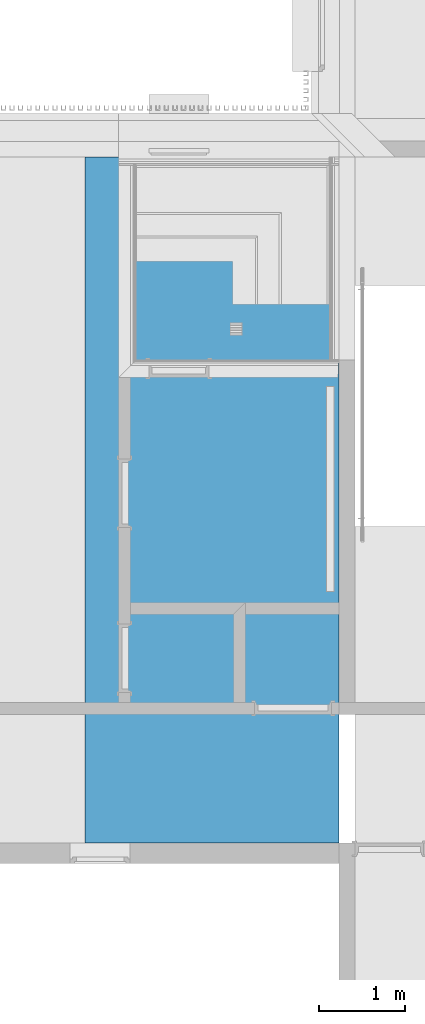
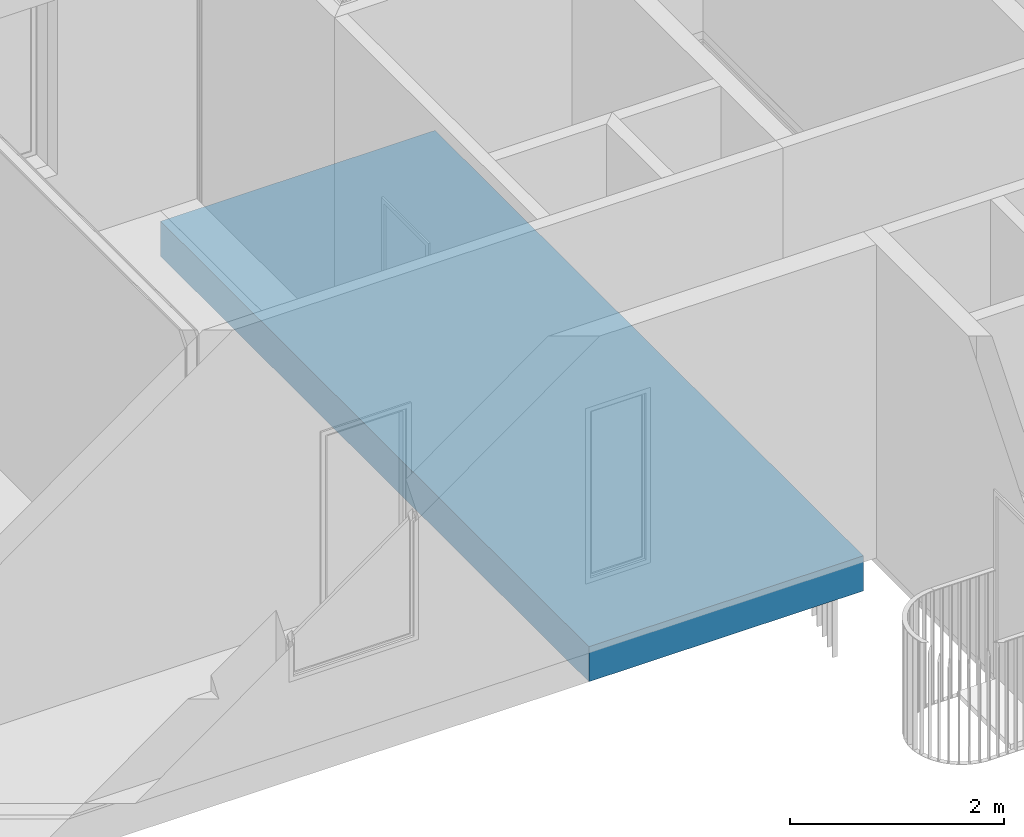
# One storey, part 66 of 100: 1 building element part, 1 element without a shape of its own.
"""IFC2X3 building model written with IfcOpenShell, lengths in millimetres."""

from ifc_helpers import new_model, entity, si_unit, converted_unit, derived_unit, money_unit, direction, frame, origin_with_axes, place, context, subcontext, project, spatial, polyline, outline, extrude, boolean, faceted_brep, material, type_object, element, aggregate, save


model = new_model("IFC2X3")

# Units and contexts
model_context = context("Model", 3, precision=0.01, world=origin_with_axes(), true_north=direction((0.0, 1.0)))
body_context = subcontext(model_context, "Body", "Model", "MODEL_VIEW")
ifc_project = project(units=[si_unit("LENGTHUNIT", "METRE", prefix="MILLI"), si_unit("AREAUNIT", "SQUARE_METRE"), si_unit("VOLUMEUNIT", "CUBIC_METRE"), converted_unit("PLANEANGLEUNIT", "DEGREE", entity("IfcPlaneAngleMeasure", 0.0174532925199), si_unit("PLANEANGLEUNIT", "RADIAN"), dimensions=[0, 0, 0, 0, 0, 0, 0]), si_unit("SOLIDANGLEUNIT", "STERADIAN"), money_unit("EUR"), converted_unit("TIMEUNIT", "Year", entity("IfcTimeMeasure", 31556926.0), si_unit("TIMEUNIT", "SECOND"), dimensions=[0, 0, 1, 0, 0, 0, 0]), si_unit("MASSUNIT", "GRAM", prefix="KILO"), si_unit("THERMODYNAMICTEMPERATUREUNIT", "DEGREE_CELSIUS"), si_unit("LUMINOUSINTENSITYUNIT", "LUMEN"), si_unit("ENERGYUNIT", "JOULE", prefix="MEGA"), derived_unit("THERMALCONDUCTANCEUNIT", [(si_unit("POWERUNIT", "WATT"), 1), (si_unit("LENGTHUNIT", "METRE"), -1), (si_unit("THERMODYNAMICTEMPERATUREUNIT", "KELVIN"), -1)]), derived_unit("SPECIFICHEATCAPACITYUNIT", [(si_unit("ENERGYUNIT", "JOULE"), 1), (si_unit("MASSUNIT", "GRAM", prefix="KILO"), -1), (si_unit("THERMODYNAMICTEMPERATUREUNIT", "KELVIN"), -1)]), derived_unit("MASSDENSITYUNIT", [(si_unit("MASSUNIT", "GRAM", prefix="KILO"), 1), (si_unit("VOLUMEUNIT", "CUBIC_METRE"), -1)])], contexts=[model_context])

# Site, building, storey
site_placement = place(None, origin_with_axes())
site = spatial("IfcSite", under=ifc_project, at=site_placement, Name="Politse- ja Piirivalveameti ning Päästeameti ühishoone", CompositionType="ELEMENT")
building_placement = place(site_placement, origin_with_axes())
building = spatial("IfcBuilding", under=site, at=building_placement, Name="Politse- ja Piirivalveameti ning Päästeameti ühishoone", CompositionType="ELEMENT")
storey_placement = place(building_placement, frame((0.0, 0.0, 3800.0), z_axis=(0.0, 0.0, 1.0), x_axis=(1.0, 0.0, 0.0)))
storey = spatial("IfcBuildingStorey", under=building, at=storey_placement, Name="Teine korrus", CompositionType="ELEMENT", Elevation=3800.0)

# Slab, building element part
slab_type = type_object("IfcSlabType", Name="VL-05_Vahelagi   400 paneel 520", PredefinedType="NOTDEFINED")
slab_placement = place(storey_placement, frame((57010.0279565, 20999.9410462, 0.0), z_axis=(0.0, 0.0, 1.0), x_axis=(1.0, 0.0, 0.0)))
slab = element("IfcSlab", 1, at=slab_placement, inside=storey, type_object=slab_type, Name="VL-05", PredefinedType="NOTDEFINED")
ifc_material = material(Name="KON-06_Raudbetoon - Konstruktsioon")
building_element_part_placement = place(slab_placement, origin_with_axes())
building_element_part = element("IfcBuildingElementPart", 2, at=building_element_part_placement, material=ifc_material, Name="KON-06_Raudbetoon - Konstruktsioon", context=body_context, shape_type="CSG", body=[
    boolean("DIFFERENCE", boolean("DIFFERENCE", boolean("DIFFERENCE", extrude(outline(polyline([(0.0, 0.0), (0.00405077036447, -7999.9211851), (2960.52395533, -7999.9211851), (2960.52395533, -4.69243666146e-05), (0.0, 0.0)])), frame((0.0, 0.0, -520.0), z_axis=(0.0, 0.0, 1.0), x_axis=(1.0, 0.0, 0.0)), (0.0, 0.0, 1.0), 400.0), faceted_brep([(1687.3840015, -2080.03274076, -90.0), (1837.3840015, -2080.03274076, -90.0), (1837.3840015, -1930.03274076, -90.0), (1687.3840015, -1930.03274076, -90.0), (1806.8840015, -1960.53274076, -90.0), (1806.8840015, -1935.03274076, -90.0), (1832.3840015, -1935.03274076, -90.0), (1832.3840015, -1960.53274076, -90.0), (1806.8840015, -1989.53274076, -90.0), (1806.8840015, -1962.53274076, -90.0), (1832.3840015, -1962.53274076, -90.0), (1832.3840015, -1989.53274076, -90.0), (1806.8840015, -2018.53274076, -90.0), (1806.8840015, -1991.53274076, -90.0), (1832.3840015, -1991.53274076, -90.0), (1832.3840015, -2018.53274076, -90.0), (1806.8840015, -2047.53274076, -90.0), (1806.8840015, -2020.53274076, -90.0), (1832.3840015, -2020.53274076, -90.0), (1832.3840015, -2047.53274076, -90.0), (1777.8840015, -1960.53274076, -90.0), (1777.8840015, -1935.03274076, -90.0), (1804.8840015, -1935.03274076, -90.0), (1804.8840015, -1960.53274076, -90.0), (1777.8840015, -1989.53274076, -90.0), (1777.8840015, -1962.53274076, -90.0), (1804.8840015, -1962.53274076, -90.0), (1804.8840015, -1989.53274076, -90.0), (1777.8840015, -2018.53274076, -90.0), (1777.8840015, -1991.53274076, -90.0), (1804.8840015, -1991.53274076, -90.0), (1804.8840015, -2018.53274076, -90.0), (1777.8840015, -2047.53274076, -90.0), (1777.8840015, -2020.53274076, -90.0), (1804.8840015, -2020.53274076, -90.0), (1804.8840015, -2047.53274076, -90.0), (1748.8840015, -1960.53274076, -90.0), (1748.8840012, -1935.03274076, -90.0), (1775.8840015, -1935.03274076, -90.0), (1775.8840015, -1960.53274076, -90.0), (1748.8840015, -1989.53274076, -90.0), (1748.8840015, -1962.53274076, -90.0), (1775.8840015, -1962.53274076, -90.0), (1775.8840015, -1989.53274076, -90.0), (1748.8840015, -2018.53274076, -90.0), (1748.8840015, -1991.53274076, -90.0), (1775.8840015, -1991.53274076, -90.0), (1775.8840015, -2018.53274076, -90.0), (1748.8840015, -2047.53274076, -90.0), (1748.8840015, -2020.53274076, -90.0), (1775.8840015, -2020.53274076, -90.0), (1775.8840015, -2047.53274076, -90.0), (1719.8840015, -1960.53274076, -90.0), (1719.8840012, -1935.03274076, -90.0), (1746.8840015, -1935.03274076, -90.0), (1746.8840015, -1960.53274076, -90.0), (1719.8840015, -1989.53274076, -90.0), (1719.8840015, -1962.53274076, -90.0), (1746.8840015, -1962.53274076, -90.0), (1746.8840015, -1989.53274076, -90.0), (1719.8840015, -2018.53274076, -90.0), (1719.8840015, -1991.53274076, -90.0), (1746.8840015, -1991.53274076, -90.0), (1746.8840015, -2018.53274076, -90.0), (1719.8840015, -2047.53274076, -90.0), (1719.8840015, -2020.53274076, -90.0), (1746.8840015, -2020.53274076, -90.0), (1746.8840015, -2047.53274076, -90.0), (1692.3840015, -1960.53274076, -90.0), (1692.3840015, -1935.03274076, -90.0), (1717.8840015, -1935.03274076, -90.0), (1717.8840015, -1960.53274076, -90.0), (1692.3840015, -1989.53274076, -90.0), (1692.3840015, -1962.53274076, -90.0), (1717.8840015, -1962.53274076, -90.0), (1717.8840015, -1989.53274076, -90.0), (1692.3840015, -2018.53274076, -90.0), (1692.3840015, -1991.53274076, -90.0), (1717.8840015, -1991.53274076, -90.0), (1717.8840015, -2018.53274076, -90.0), (1692.3840015, -2047.53274076, -90.0), (1692.3840015, -2020.53274076, -90.0), (1717.8840015, -2020.53274076, -90.0), (1717.8840015, -2047.53274076, -90.0), (1692.3840015, -2075.03274076, -90.0), (1692.3840015, -2049.53274076, -90.0), (1717.8840015, -2049.53274076, -90.0), (1717.8840015, -2075.03274076, -90.0), (1719.8840015, -2075.03274076, -90.0), (1719.8840015, -2049.53274076, -90.0), (1746.8840015, -2049.53274076, -90.0), (1746.8840015, -2075.03274076, -90.0), (1748.8840015, -2075.03274076, -90.0), (1748.8840015, -2049.53274076, -90.0), (1775.8840015, -2049.53274076, -90.0), (1775.8840015, -2075.03274076, -90.0), (1777.8840015, -2075.03274076, -90.0), (1777.8840015, -2049.53274076, -90.0), (1804.8840015, -2049.53274076, -90.0), (1804.8840015, -2075.03274076, -90.0), (1806.8840015, -2075.03274076, -90.0), (1806.8840015, -2049.53274076, -90.0), (1832.3840015, -2049.53274076, -90.0), (1832.3840015, -2075.03274076, -90.0), (1687.3840015, -2080.03274076, -100.0), (1837.3840015, -2080.03274076, -100.0), (1837.3840015, -1930.03274076, -100.0), (1687.3840015, -1930.03274076, -100.0), (1806.8840015, -1960.53274076, -100.0), (1806.8840015, -1935.03274076, -100.0), (1832.3840015, -1935.03274076, -100.0), (1832.3840015, -1960.53274076, -100.0), (1806.8840015, -1989.53274076, -100.0), (1806.8840015, -1962.53274076, -100.0), (1832.3840015, -1962.53274076, -100.0), (1832.3840015, -1989.53274076, -100.0), (1806.8840015, -2018.53274076, -100.0), (1806.8840015, -1991.53274076, -100.0), (1832.3840015, -1991.53274076, -100.0), (1832.3840015, -2018.53274076, -100.0), (1806.8840015, -2047.53274076, -100.0), (1806.8840015, -2020.53274076, -100.0), (1832.3840015, -2020.53274076, -100.0), (1832.3840015, -2047.53274076, -100.0), (1777.8840015, -1960.53274076, -100.0), (1777.8840015, -1935.03274076, -100.0), (1804.8840015, -1935.03274076, -100.0), (1804.8840015, -1960.53274076, -100.0), (1777.8840015, -1989.53274076, -100.0), (1777.8840015, -1962.53274076, -100.0), (1804.8840015, -1962.53274076, -100.0), (1804.8840015, -1989.53274076, -100.0), (1777.8840015, -2018.53274076, -100.0), (1777.8840015, -1991.53274076, -100.0), (1804.8840015, -1991.53274076, -100.0), (1804.8840015, -2018.53274076, -100.0), (1777.8840015, -2047.53274076, -100.0), (1777.8840015, -2020.53274076, -100.0), (1804.8840015, -2020.53274076, -100.0), (1804.8840015, -2047.53274076, -100.0), (1748.8840015, -1960.53274076, -100.0), (1748.8840012, -1935.03274076, -100.0), (1775.8840015, -1935.03274076, -100.0), (1775.8840015, -1960.53274076, -100.0), (1748.8840015, -1989.53274076, -100.0), (1748.8840015, -1962.53274076, -100.0), (1775.8840015, -1962.53274076, -100.0), (1775.8840015, -1989.53274076, -100.0), (1748.8840015, -2018.53274076, -100.0), (1748.8840015, -1991.53274076, -100.0), (1775.8840015, -1991.53274076, -100.0), (1775.8840015, -2018.53274076, -100.0), (1748.8840015, -2047.53274076, -100.0), (1748.8840015, -2020.53274076, -100.0), (1775.8840015, -2020.53274076, -100.0), (1775.8840015, -2047.53274076, -100.0), (1719.8840015, -1960.53274076, -100.0), (1719.8840012, -1935.03274076, -100.0), (1746.8840015, -1935.03274076, -100.0), (1746.8840015, -1960.53274076, -100.0), (1719.8840015, -1989.53274076, -100.0), (1719.8840015, -1962.53274076, -100.0), (1746.8840015, -1962.53274076, -100.0), (1746.8840015, -1989.53274076, -100.0), (1719.8840015, -2018.53274076, -100.0), (1719.8840015, -1991.53274076, -100.0), (1746.8840015, -1991.53274076, -100.0), (1746.8840015, -2018.53274076, -100.0), (1719.8840015, -2047.53274076, -100.0), (1719.8840015, -2020.53274076, -100.0), (1746.8840015, -2020.53274076, -100.0), (1746.8840015, -2047.53274076, -100.0), (1692.3840015, -1960.53274076, -100.0), (1692.3840015, -1935.03274076, -100.0), (1717.8840015, -1935.03274076, -100.0), (1717.8840015, -1960.53274076, -100.0), (1692.3840015, -1989.53274076, -100.0), (1692.3840015, -1962.53274076, -100.0), (1717.8840015, -1962.53274076, -100.0), (1717.8840015, -1989.53274076, -100.0), (1692.3840015, -2018.53274076, -100.0), (1692.3840015, -1991.53274076, -100.0), (1717.8840015, -1991.53274076, -100.0), (1717.8840015, -2018.53274076, -100.0), (1692.3840015, -2047.53274076, -100.0), (1692.3840015, -2020.53274076, -100.0), (1717.8840015, -2020.53274076, -100.0), (1717.8840015, -2047.53274076, -100.0), (1692.3840015, -2075.03274076, -100.0), (1692.3840015, -2049.53274076, -100.0), (1717.8840015, -2049.53274076, -100.0), (1717.8840015, -2075.03274076, -100.0), (1719.8840015, -2075.03274076, -100.0), (1719.8840015, -2049.53274076, -100.0), (1746.8840015, -2049.53274076, -100.0), (1746.8840015, -2075.03274076, -100.0), (1748.8840015, -2075.03274076, -100.0), (1748.8840015, -2049.53274076, -100.0), (1775.8840015, -2049.53274076, -100.0), (1775.8840015, -2075.03274076, -100.0), (1777.8840015, -2075.03274076, -100.0), (1777.8840015, -2049.53274076, -100.0), (1804.8840015, -2049.53274076, -100.0), (1804.8840015, -2075.03274076, -100.0), (1806.8840015, -2075.03274076, -100.0), (1806.8840015, -2049.53274076, -100.0), (1832.3840015, -2049.53274076, -100.0), (1832.3840015, -2075.03274076, -100.0)], [[[0, 1, 2, 3], [4, 5, 6, 7], [8, 9, 10, 11], [12, 13, 14, 15], [16, 17, 18, 19], [20, 21, 22, 23], [24, 25, 26, 27], [28, 29, 30, 31], [32, 33, 34, 35], [36, 37, 38, 39], [40, 41, 42, 43], [44, 45, 46, 47], [48, 49, 50, 51], [52, 53, 54, 55], [56, 57, 58, 59], [60, 61, 62, 63], [64, 65, 66, 67], [68, 69, 70, 71], [72, 73, 74, 75], [76, 77, 78, 79], [80, 81, 82, 83], [84, 85, 86, 87], [88, 89, 90, 91], [92, 93, 94, 95], [96, 97, 98, 99], [100, 101, 102, 103]], [[1, 0, 104, 105]], [[2, 1, 105, 106]], [[3, 2, 106, 107]], [[0, 3, 107, 104]], [[5, 4, 108, 109]], [[6, 5, 109, 110]], [[7, 6, 110, 111]], [[4, 7, 111, 108]], [[9, 8, 112, 113]], [[10, 9, 113, 114]], [[11, 10, 114, 115]], [[8, 11, 115, 112]], [[13, 12, 116, 117]], [[14, 13, 117, 118]], [[15, 14, 118, 119]], [[12, 15, 119, 116]], [[17, 16, 120, 121]], [[18, 17, 121, 122]], [[19, 18, 122, 123]], [[16, 19, 123, 120]], [[21, 20, 124, 125]], [[22, 21, 125, 126]], [[23, 22, 126, 127]], [[20, 23, 127, 124]], [[25, 24, 128, 129]], [[26, 25, 129, 130]], [[27, 26, 130, 131]], [[24, 27, 131, 128]], [[29, 28, 132, 133]], [[30, 29, 133, 134]], [[31, 30, 134, 135]], [[28, 31, 135, 132]], [[33, 32, 136, 137]], [[34, 33, 137, 138]], [[35, 34, 138, 139]], [[32, 35, 139, 136]], [[37, 36, 140, 141]], [[38, 37, 141, 142]], [[39, 38, 142, 143]], [[36, 39, 143, 140]], [[41, 40, 144, 145]], [[42, 41, 145, 146]], [[43, 42, 146, 147]], [[40, 43, 147, 144]], [[45, 44, 148, 149]], [[46, 45, 149, 150]], [[47, 46, 150, 151]], [[44, 47, 151, 148]], [[49, 48, 152, 153]], [[50, 49, 153, 154]], [[51, 50, 154, 155]], [[48, 51, 155, 152]], [[53, 52, 156, 157]], [[54, 53, 157, 158]], [[55, 54, 158, 159]], [[52, 55, 159, 156]], [[57, 56, 160, 161]], [[58, 57, 161, 162]], [[59, 58, 162, 163]], [[56, 59, 163, 160]], [[61, 60, 164, 165]], [[62, 61, 165, 166]], [[63, 62, 166, 167]], [[60, 63, 167, 164]], [[65, 64, 168, 169]], [[66, 65, 169, 170]], [[67, 66, 170, 171]], [[64, 67, 171, 168]], [[69, 68, 172, 173]], [[70, 69, 173, 174]], [[71, 70, 174, 175]], [[68, 71, 175, 172]], [[73, 72, 176, 177]], [[74, 73, 177, 178]], [[75, 74, 178, 179]], [[72, 75, 179, 176]], [[77, 76, 180, 181]], [[78, 77, 181, 182]], [[79, 78, 182, 183]], [[76, 79, 183, 180]], [[81, 80, 184, 185]], [[82, 81, 185, 186]], [[83, 82, 186, 187]], [[80, 83, 187, 184]], [[85, 84, 188, 189]], [[86, 85, 189, 190]], [[87, 86, 190, 191]], [[84, 87, 191, 188]], [[89, 88, 192, 193]], [[90, 89, 193, 194]], [[91, 90, 194, 195]], [[88, 91, 195, 192]], [[93, 92, 196, 197]], [[94, 93, 197, 198]], [[95, 94, 198, 199]], [[92, 95, 199, 196]], [[97, 96, 200, 201]], [[98, 97, 201, 202]], [[99, 98, 202, 203]], [[96, 99, 203, 200]], [[101, 100, 204, 205]], [[102, 101, 205, 206]], [[103, 102, 206, 207]], [[100, 103, 207, 204]], [[107, 173, 172, 177, 176, 181, 180, 185, 184, 189, 188, 191, 192, 195, 196, 199, 200, 203, 204, 207, 206, 123, 122, 119, 118, 115, 114, 111, 110, 106, 105, 104]], [[173, 107, 106, 110, 109, 108, 113, 112, 117, 116, 121, 120, 205, 204, 203, 202, 139, 138, 135, 134, 131, 130, 127, 126, 125, 124, 129, 128, 133, 132, 137, 136, 201, 200, 199, 198, 155, 154, 151, 150, 147, 146, 143, 142, 141, 140, 145, 144, 149, 148, 153, 152, 197, 196, 195, 194, 171, 170, 167, 166, 163, 162, 159, 158, 157, 156, 161, 160, 165, 164, 169, 168, 193, 192, 191, 190, 187, 186, 183, 182, 179, 178, 175, 174]], [[114, 113, 108, 111]], [[117, 112, 115, 118]], [[122, 121, 116, 119]], [[206, 205, 120, 123]], [[130, 129, 124, 127]], [[133, 128, 131, 134]], [[138, 137, 132, 135]], [[201, 136, 139, 202]], [[145, 140, 143, 146]], [[150, 149, 144, 147]], [[154, 153, 148, 151]], [[197, 152, 155, 198]], [[159, 162, 161, 156]], [[166, 165, 160, 163]], [[170, 169, 164, 167]], [[171, 194, 193, 168]], [[175, 178, 177, 172]], [[179, 182, 181, 176]], [[183, 186, 185, 180]], [[187, 190, 189, 184]]])), faceted_brep([(1687.3840015, -2080.03274076, -90.0), (1687.3840015, -1930.03274076, -90.0), (1837.3840015, -1930.03274076, -90.0), (1837.3840015, -2080.03274076, -90.0), (1806.8840015, -1960.53274076, -90.0), (1832.3840015, -1960.53274076, -90.0), (1832.3840015, -1935.03274076, -90.0), (1806.8840015, -1935.03274076, -90.0), (1806.8840015, -1989.53274076, -90.0), (1832.3840015, -1989.53274076, -90.0), (1832.3840015, -1962.53274076, -90.0), (1806.8840015, -1962.53274076, -90.0), (1806.8840015, -2018.53274076, -90.0), (1832.3840015, -2018.53274076, -90.0), (1832.3840015, -1991.53274076, -90.0), (1806.8840015, -1991.53274076, -90.0), (1806.8840015, -2047.53274076, -90.0), (1832.3840015, -2047.53274076, -90.0), (1832.3840015, -2020.53274076, -90.0), (1806.8840015, -2020.53274076, -90.0), (1777.8840015, -1960.53274076, -90.0), (1804.8840015, -1960.53274076, -90.0), (1804.8840015, -1935.03274076, -90.0), (1777.8840015, -1935.03274076, -90.0), (1777.8840015, -1989.53274076, -90.0), (1804.8840015, -1989.53274076, -90.0), (1804.8840015, -1962.53274076, -90.0), (1777.8840015, -1962.53274076, -90.0), (1777.8840015, -2018.53274076, -90.0), (1804.8840015, -2018.53274076, -90.0), (1804.8840015, -1991.53274076, -90.0), (1777.8840015, -1991.53274076, -90.0), (1777.8840015, -2047.53274076, -90.0), (1804.8840015, -2047.53274076, -90.0), (1804.8840015, -2020.53274076, -90.0), (1777.8840015, -2020.53274076, -90.0), (1748.8840015, -1960.53274076, -90.0), (1775.8840015, -1960.53274076, -90.0), (1775.8840015, -1935.03274076, -90.0), (1748.8840012, -1935.03274076, -90.0), (1748.8840015, -1989.53274076, -90.0), (1775.8840015, -1989.53274076, -90.0), (1775.8840015, -1962.53274076, -90.0), (1748.8840015, -1962.53274076, -90.0), (1748.8840015, -2018.53274076, -90.0), (1775.8840015, -2018.53274076, -90.0), (1775.8840015, -1991.53274076, -90.0), (1748.8840015, -1991.53274076, -90.0), (1748.8840015, -2047.53274076, -90.0), (1775.8840015, -2047.53274076, -90.0), (1775.8840015, -2020.53274076, -90.0), (1748.8840015, -2020.53274076, -90.0), (1719.8840015, -1960.53274076, -90.0), (1746.8840015, -1960.53274076, -90.0), (1746.8840015, -1935.03274076, -90.0), (1719.8840012, -1935.03274076, -90.0), (1719.8840015, -1989.53274076, -90.0), (1746.8840015, -1989.53274076, -90.0), (1746.8840015, -1962.53274076, -90.0), (1719.8840015, -1962.53274076, -90.0), (1719.8840015, -2018.53274076, -90.0), (1746.8840015, -2018.53274076, -90.0), (1746.8840015, -1991.53274076, -90.0), (1719.8840015, -1991.53274076, -90.0), (1719.8840015, -2047.53274076, -90.0), (1746.8840015, -2047.53274076, -90.0), (1746.8840015, -2020.53274076, -90.0), (1719.8840015, -2020.53274076, -90.0), (1692.3840015, -1960.53274076, -90.0), (1717.8840015, -1960.53274076, -90.0), (1717.8840015, -1935.03274076, -90.0), (1692.3840015, -1935.03274076, -90.0), (1692.3840015, -1989.53274076, -90.0), (1717.8840015, -1989.53274076, -90.0), (1717.8840015, -1962.53274076, -90.0), (1692.3840015, -1962.53274076, -90.0), (1692.3840015, -2018.53274076, -90.0), (1717.8840015, -2018.53274076, -90.0), (1717.8840015, -1991.53274076, -90.0), (1692.3840015, -1991.53274076, -90.0), (1692.3840015, -2047.53274076, -90.0), (1717.8840015, -2047.53274076, -90.0), (1717.8840015, -2020.53274076, -90.0), (1692.3840015, -2020.53274076, -90.0), (1692.3840015, -2075.03274076, -90.0), (1717.8840015, -2075.03274076, -90.0), (1717.8840015, -2049.53274076, -90.0), (1692.3840015, -2049.53274076, -90.0), (1719.8840015, -2075.03274076, -90.0), (1746.8840015, -2075.03274076, -90.0), (1746.8840015, -2049.53274076, -90.0), (1719.8840015, -2049.53274076, -90.0), (1748.8840015, -2075.03274076, -90.0), (1775.8840015, -2075.03274076, -90.0), (1775.8840015, -2049.53274076, -90.0), (1748.8840015, -2049.53274076, -90.0), (1777.8840015, -2075.03274076, -90.0), (1804.8840015, -2075.03274076, -90.0), (1804.8840015, -2049.53274076, -90.0), (1777.8840015, -2049.53274076, -90.0), (1806.8840015, -2075.03274076, -90.0), (1832.3840015, -2075.03274076, -90.0), (1832.3840015, -2049.53274076, -90.0), (1806.8840015, -2049.53274076, -90.0), (1687.3840015, -2080.03274076, 0.0), (1687.3840015, -1930.03274076, 0.0), (1837.3840015, -1930.03274076, 0.0), (1837.3840015, -2080.03274076, 0.0), (1806.8840015, -1960.53274076, -56.35), (1832.3840015, -1960.53274076, -56.35), (1832.3840015, -1935.03274076, -56.35), (1806.8840015, -1935.03274076, -56.35), (1806.8840015, -1989.53274076, -56.35), (1832.3840015, -1989.53274076, -56.35), (1832.3840015, -1962.53274076, -56.35), (1806.8840015, -1962.53274076, -56.35), (1806.8840015, -2018.53274076, -56.35), (1832.3840015, -2018.53274076, -56.35), (1832.3840015, -1991.53274076, -56.35), (1806.8840015, -1991.53274076, -56.35), (1806.8840015, -2047.53274076, -56.35), (1832.3840015, -2047.53274076, -56.35), (1832.3840015, -2020.53274076, -56.35), (1806.8840015, -2020.53274076, -56.35), (1777.8840015, -1960.53274076, -56.35), (1804.8840015, -1960.53274076, -56.35), (1804.8840015, -1935.03274076, -56.35), (1777.8840015, -1935.03274076, -56.35), (1777.8840015, -1989.53274076, -56.35), (1804.8840015, -1989.53274076, -56.35), (1804.8840015, -1962.53274076, -56.35), (1777.8840015, -1962.53274076, -56.35), (1777.8840015, -2018.53274076, -56.35), (1804.8840015, -2018.53274076, -56.35), (1804.8840015, -1991.53274076, -56.35), (1777.8840015, -1991.53274076, -56.35), (1777.8840015, -2047.53274076, -56.35), (1804.8840015, -2047.53274076, -56.35), (1804.8840015, -2020.53274076, -56.35), (1777.8840015, -2020.53274076, -56.35), (1748.8840015, -1960.53274076, -56.35), (1775.8840015, -1960.53274076, -56.35), (1775.8840015, -1935.03274076, -56.35), (1748.8840012, -1935.03274076, -56.35), (1748.8840015, -1989.53274076, -56.35), (1775.8840015, -1989.53274076, -56.35), (1775.8840015, -1962.53274076, -56.35), (1748.8840015, -1962.53274076, -56.35), (1748.8840015, -2018.53274076, -56.35), (1775.8840015, -2018.53274076, -56.35), (1775.8840015, -1991.53274076, -56.35), (1748.8840015, -1991.53274076, -56.35), (1748.8840015, -2047.53274076, -56.35), (1775.8840015, -2047.53274076, -56.35), (1775.8840015, -2020.53274076, -56.35), (1748.8840015, -2020.53274076, -56.35), (1719.8840015, -1960.53274076, -56.35), (1746.8840015, -1960.53274076, -56.35), (1746.8840015, -1935.03274076, -56.35), (1719.8840012, -1935.03274076, -56.35), (1719.8840015, -1989.53274076, -56.35), (1746.8840015, -1989.53274076, -56.35), (1746.8840015, -1962.53274076, -56.35), (1719.8840015, -1962.53274076, -56.35), (1719.8840015, -2018.53274076, -56.35), (1746.8840015, -2018.53274076, -56.35), (1746.8840015, -1991.53274076, -56.35), (1719.8840015, -1991.53274076, -56.35), (1719.8840015, -2047.53274076, -56.35), (1746.8840015, -2047.53274076, -56.35), (1746.8840015, -2020.53274076, -56.35), (1719.8840015, -2020.53274076, -56.35), (1692.3840015, -1960.53274076, -56.35), (1717.8840015, -1960.53274076, -56.35), (1717.8840015, -1935.03274076, -56.35), (1692.3840015, -1935.03274076, -56.35), (1692.3840015, -1989.53274076, -56.35), (1717.8840015, -1989.53274076, -56.35), (1717.8840015, -1962.53274076, -56.35), (1692.3840015, -1962.53274076, -56.35), (1692.3840015, -2018.53274076, -56.35), (1717.8840015, -2018.53274076, -56.35), (1717.8840015, -1991.53274076, -56.35), (1692.3840015, -1991.53274076, -56.35), (1692.3840015, -2047.53274076, -56.35), (1717.8840015, -2047.53274076, -56.35), (1717.8840015, -2020.53274076, -56.35), (1692.3840015, -2020.53274076, -56.35), (1692.3840015, -2075.03274076, -56.35), (1717.8840015, -2075.03274076, -56.35), (1717.8840015, -2049.53274076, -56.35), (1692.3840015, -2049.53274076, -56.35), (1719.8840015, -2075.03274076, -56.35), (1746.8840015, -2075.03274076, -56.35), (1746.8840015, -2049.53274076, -56.35), (1719.8840015, -2049.53274076, -56.35), (1748.8840015, -2075.03274076, -56.35), (1775.8840015, -2075.03274076, -56.35), (1775.8840015, -2049.53274076, -56.35), (1748.8840015, -2049.53274076, -56.35), (1777.8840015, -2075.03274076, -56.35), (1804.8840015, -2075.03274076, -56.35), (1804.8840015, -2049.53274076, -56.35), (1777.8840015, -2049.53274076, -56.35), (1806.8840015, -2075.03274076, -56.35), (1832.3840015, -2075.03274076, -56.35), (1832.3840015, -2049.53274076, -56.35), (1806.8840015, -2049.53274076, -56.35)], [[[0, 1, 2, 3], [4, 5, 6, 7], [8, 9, 10, 11], [12, 13, 14, 15], [16, 17, 18, 19], [20, 21, 22, 23], [24, 25, 26, 27], [28, 29, 30, 31], [32, 33, 34, 35], [36, 37, 38, 39], [40, 41, 42, 43], [44, 45, 46, 47], [48, 49, 50, 51], [52, 53, 54, 55], [56, 57, 58, 59], [60, 61, 62, 63], [64, 65, 66, 67], [68, 69, 70, 71], [72, 73, 74, 75], [76, 77, 78, 79], [80, 81, 82, 83], [84, 85, 86, 87], [88, 89, 90, 91], [92, 93, 94, 95], [96, 97, 98, 99], [100, 101, 102, 103]], [[104, 105, 1, 0]], [[105, 106, 2, 1]], [[106, 107, 3, 2]], [[107, 104, 0, 3]], [[5, 4, 108, 109]], [[6, 5, 109, 110]], [[7, 6, 110, 111]], [[4, 7, 111, 108]], [[9, 8, 112, 113]], [[10, 9, 113, 114]], [[11, 10, 114, 115]], [[8, 11, 115, 112]], [[13, 12, 116, 117]], [[14, 13, 117, 118]], [[15, 14, 118, 119]], [[12, 15, 119, 116]], [[17, 16, 120, 121]], [[18, 17, 121, 122]], [[19, 18, 122, 123]], [[16, 19, 123, 120]], [[21, 20, 124, 125]], [[22, 21, 125, 126]], [[23, 22, 126, 127]], [[20, 23, 127, 124]], [[25, 24, 128, 129]], [[26, 25, 129, 130]], [[27, 26, 130, 131]], [[24, 27, 131, 128]], [[29, 28, 132, 133]], [[30, 29, 133, 134]], [[31, 30, 134, 135]], [[28, 31, 135, 132]], [[33, 32, 136, 137]], [[34, 33, 137, 138]], [[35, 34, 138, 139]], [[32, 35, 139, 136]], [[37, 36, 140, 141]], [[38, 37, 141, 142]], [[39, 38, 142, 143]], [[36, 39, 143, 140]], [[41, 40, 144, 145]], [[42, 41, 145, 146]], [[43, 42, 146, 147]], [[40, 43, 147, 144]], [[45, 44, 148, 149]], [[46, 45, 149, 150]], [[47, 46, 150, 151]], [[44, 47, 151, 148]], [[49, 48, 152, 153]], [[50, 49, 153, 154]], [[51, 50, 154, 155]], [[48, 51, 155, 152]], [[53, 52, 156, 157]], [[54, 53, 157, 158]], [[55, 54, 158, 159]], [[52, 55, 159, 156]], [[57, 56, 160, 161]], [[58, 57, 161, 162]], [[59, 58, 162, 163]], [[56, 59, 163, 160]], [[61, 60, 164, 165]], [[62, 61, 165, 166]], [[63, 62, 166, 167]], [[60, 63, 167, 164]], [[65, 64, 168, 169]], [[66, 65, 169, 170]], [[67, 66, 170, 171]], [[64, 67, 171, 168]], [[69, 68, 172, 173]], [[70, 69, 173, 174]], [[71, 70, 174, 175]], [[68, 71, 175, 172]], [[73, 72, 176, 177]], [[74, 73, 177, 178]], [[75, 74, 178, 179]], [[72, 75, 179, 176]], [[77, 76, 180, 181]], [[78, 77, 181, 182]], [[79, 78, 182, 183]], [[76, 79, 183, 180]], [[81, 80, 184, 185]], [[82, 81, 185, 186]], [[83, 82, 186, 187]], [[80, 83, 187, 184]], [[85, 84, 188, 189]], [[86, 85, 189, 190]], [[87, 86, 190, 191]], [[84, 87, 191, 188]], [[89, 88, 192, 193]], [[90, 89, 193, 194]], [[91, 90, 194, 195]], [[88, 91, 195, 192]], [[93, 92, 196, 197]], [[94, 93, 197, 198]], [[95, 94, 198, 199]], [[92, 95, 199, 196]], [[97, 96, 200, 201]], [[98, 97, 201, 202]], [[99, 98, 202, 203]], [[96, 99, 203, 200]], [[101, 100, 204, 205]], [[102, 101, 205, 206]], [[103, 102, 206, 207]], [[100, 103, 207, 204]], [[104, 107, 106, 105]], [[110, 109, 108, 111]], [[113, 112, 115, 114]], [[117, 116, 119, 118]], [[122, 121, 120, 123]], [[125, 124, 127, 126]], [[128, 131, 130, 129]], [[133, 132, 135, 134]], [[138, 137, 136, 139]], [[141, 140, 143, 142]], [[145, 144, 147, 146]], [[148, 151, 150, 149]], [[152, 155, 154, 153]], [[157, 156, 159, 158]], [[162, 161, 160, 163]], [[165, 164, 167, 166]], [[168, 171, 170, 169]], [[173, 172, 175, 174]], [[176, 179, 178, 177]], [[180, 183, 182, 181]], [[184, 187, 186, 185]], [[189, 188, 191, 190]], [[192, 195, 194, 193]], [[198, 197, 196, 199]], [[202, 201, 200, 203]], [[206, 205, 204, 207]]])), faceted_brep([(2811.34537417, -5070.95374237, 0.0), (2911.34537417, -5070.95374237, 0.0), (2911.34537417, -2670.95374237, 0.0), (2811.34537417, -2670.95374237, 0.0), (2811.34537417, -5070.95374237, -50.0), (2911.34537417, -5070.95374237, -50.0), (2911.34537417, -2670.95374237, -50.0), (2811.34537417, -2670.95374237, -50.0), (2816.34537417, -2675.95374237, -50.0), (2816.34537417, -3869.95374237, -50.0), (2816.34537417, -3871.95374237, -50.0), (2816.34537417, -5065.95374237, -50.0), (2836.59537417, -5065.95374237, -50.0), (2838.59537447, -5065.95374237, -50.0), (2860.34537417, -5065.95374237, -50.0), (2862.34537417, -5065.95374237, -50.0), (2884.09537417, -5065.95374237, -50.0), (2886.09537417, -5065.95374237, -50.0), (2906.34537417, -5065.95374237, -50.0), (2906.34537417, -3871.95374237, -50.0), (2906.34537417, -3869.95374237, -50.0), (2906.34537417, -2675.95374237, -50.0), (2886.09537417, -2675.95374237, -50.0), (2886.09537417, -3869.95374237, -50.0), (2886.09537417, -3871.95374237, -50.0), (2884.09537417, -3871.95374237, -50.0), (2884.09537417, -3869.95374237, -50.0), (2884.09537417, -2675.95374237, -50.0), (2862.34537417, -2675.95374237, -50.0), (2862.34537417, -3869.95374237, -50.0), (2862.34537417, -3871.95374237, -50.0), (2860.34537417, -3871.95374237, -50.0), (2860.34537417, -3869.95374237, -50.0), (2860.34537417, -2675.95374237, -50.0), (2838.59537417, -2675.95374237, -50.0), (2838.59537417, -3869.95374237, -50.0), (2838.59537417, -3871.95374237, -50.0), (2836.59537417, -3871.95374237, -50.0), (2836.59537417, -3869.95374237, -50.0), (2836.59537417, -2675.95374237, -50.0), (2816.34537417, -2675.95374237, -31.35), (2816.34537417, -3869.95374237, -31.35), (2816.34537417, -3871.95374237, -31.35), (2816.34537417, -5065.95374237, -31.35), (2836.59537417, -5065.95374237, -31.35), (2838.59537447, -5065.95374237, -31.35), (2860.34537417, -5065.95374237, -31.35), (2862.34537417, -5065.95374237, -31.35), (2884.09537417, -5065.95374237, -31.35), (2886.09537417, -5065.95374237, -31.35), (2906.34537417, -5065.95374237, -31.35), (2906.34537417, -3871.95374237, -31.35), (2906.34537417, -3869.95374237, -31.35), (2906.34537417, -2675.95374237, -31.35), (2886.09537417, -2675.95374237, -31.35), (2886.09537417, -3869.95374237, -31.35), (2886.09537417, -3871.95374237, -31.35), (2884.09537417, -3871.95374237, -31.35), (2884.09537417, -3869.95374237, -31.35), (2884.09537417, -2675.95374237, -31.35), (2862.34537417, -2675.95374237, -31.35), (2862.34537417, -3869.95374237, -31.35), (2862.34537417, -3871.95374237, -31.35), (2860.34537417, -3871.95374237, -31.35), (2860.34537417, -3869.95374237, -31.35), (2860.34537417, -2675.95374237, -31.35), (2838.59537417, -2675.95374237, -31.35), (2838.59537417, -3869.95374237, -31.35), (2838.59537417, -3871.95374237, -31.35), (2836.59537417, -3871.95374237, -31.35), (2836.59537417, -3869.95374237, -31.35), (2836.59537417, -2675.95374237, -31.35)], [[[0, 1, 2, 3]], [[1, 0, 4, 5]], [[2, 1, 5, 6]], [[3, 2, 6, 7]], [[0, 3, 7, 4]], [[7, 8, 9, 10, 11, 12, 13, 14, 15, 16, 17, 18, 19, 20, 21, 6, 5, 4]], [[8, 7, 6, 21, 22, 23, 24, 17, 16, 25, 26, 27, 28, 29, 30, 15, 14, 31, 32, 33, 34, 35, 36, 13, 12, 37, 38, 39]], [[8, 40, 41, 9]], [[10, 9, 38, 37]], [[10, 42, 43, 11]], [[11, 43, 44, 12]], [[13, 45, 46, 14]], [[15, 47, 48, 16]], [[17, 49, 50, 18]], [[18, 50, 51, 19]], [[24, 23, 20, 19]], [[20, 52, 53, 21]], [[54, 22, 21, 53]], [[22, 54, 55, 23]], [[49, 17, 24, 56]], [[16, 48, 57, 25]], [[25, 30, 29, 26]], [[26, 58, 59, 27]], [[60, 28, 27, 59]], [[28, 60, 61, 29]], [[47, 15, 30, 62]], [[63, 31, 14, 46]], [[36, 35, 32, 31]], [[32, 64, 65, 33]], [[66, 34, 33, 65]], [[34, 66, 67, 35]], [[36, 68, 45, 13]], [[69, 37, 12, 44]], [[38, 70, 71, 39]], [[40, 8, 39, 71]], [[41, 40, 71, 70]], [[9, 41, 70, 38]], [[42, 10, 37, 69]], [[43, 42, 69, 44]], [[68, 63, 46, 45]], [[48, 47, 62, 57]], [[50, 49, 56, 51]], [[56, 24, 19, 51]], [[23, 55, 52, 20]], [[52, 55, 54, 53]], [[62, 30, 25, 57]], [[29, 61, 58, 26]], [[61, 60, 59, 58]], [[68, 36, 31, 63]], [[35, 67, 64, 32]], [[64, 67, 66, 65]]])),
])
aggregate(slab, [building_element_part])

save(model, "model.ifc")
